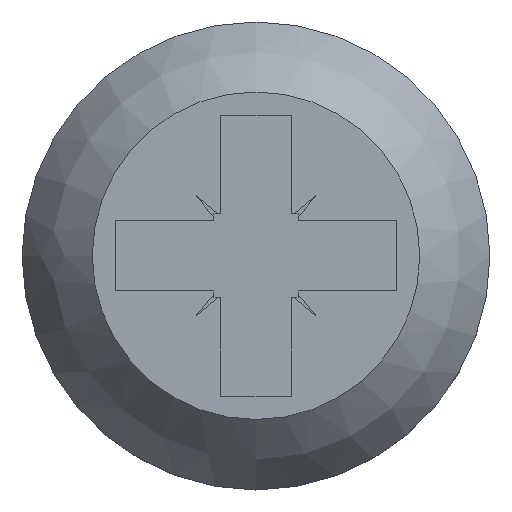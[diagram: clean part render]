
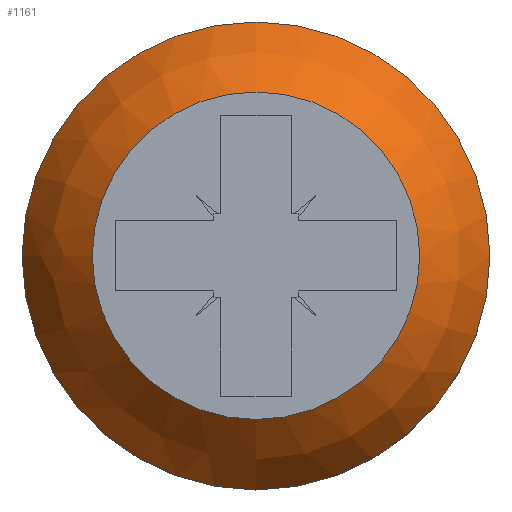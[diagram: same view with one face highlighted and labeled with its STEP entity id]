
A CAD part, top view. The second image highlights one B-rep face of the part: STEP entity #1161.
In plain terms, the highlighted spherical face has radius 3.865 mm.
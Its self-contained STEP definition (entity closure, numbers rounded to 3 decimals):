
#16=SPHERICAL_SURFACE('',#1238,3.865);
#112=FACE_OUTER_BOUND('',#170,.T.);
#170=EDGE_LOOP('',(#1070,#1071,#1072,#1073,#1074));
#181=CIRCLE('',#1237,2.45);
#182=CIRCLE('',#1239,3.865);
#183=CIRCLE('',#1240,3.5);
#184=CIRCLE('',#1241,3.5);
#572=VERTEX_POINT('',#9459);
#573=VERTEX_POINT('',#9462);
#574=VERTEX_POINT('',#9464);
#741=EDGE_CURVE('',#572,#572,#181,.T.);
#742=EDGE_CURVE('',#572,#573,#182,.T.);
#743=EDGE_CURVE('',#574,#573,#183,.T.);
#744=EDGE_CURVE('',#573,#574,#184,.T.);
#1070=ORIENTED_EDGE('',*,*,#741,.T.);
#1071=ORIENTED_EDGE('',*,*,#742,.T.);
#1072=ORIENTED_EDGE('',*,*,#743,.F.);
#1073=ORIENTED_EDGE('',*,*,#744,.F.);
#1074=ORIENTED_EDGE('',*,*,#742,.F.);
#1161=ADVANCED_FACE('',(#112),#16,.T.);
#1237=AXIS2_PLACEMENT_3D('',#9460,#1474,#1475);
#1238=AXIS2_PLACEMENT_3D('',#9461,#1476,#1477);
#1239=AXIS2_PLACEMENT_3D('',#9463,#1478,#1479);
#1240=AXIS2_PLACEMENT_3D('',#9465,#1480,#1481);
#1241=AXIS2_PLACEMENT_3D('',#9466,#1482,#1483);
#1474=DIRECTION('center_axis',(0.,0.,-1.));
#1475=DIRECTION('ref_axis',(1.,0.,0.));
#1476=DIRECTION('center_axis',(0.,0.,1.));
#1477=DIRECTION('ref_axis',(1.,0.,0.));
#1478=DIRECTION('center_axis',(0.,-1.,0.));
#1479=DIRECTION('ref_axis',(-1.,0.,0.));
#1480=DIRECTION('center_axis',(0.,0.,-1.));
#1481=DIRECTION('ref_axis',(1.,0.,0.));
#1482=DIRECTION('center_axis',(0.,0.,-1.));
#1483=DIRECTION('ref_axis',(1.,0.,0.));
#9459=CARTESIAN_POINT('',(-2.45,0.,12.7));
#9460=CARTESIAN_POINT('Origin',(0.,0.,12.7));
#9461=CARTESIAN_POINT('Origin',(0.,0.,9.711));
#9462=CARTESIAN_POINT('',(-3.5,0.,11.35));
#9463=CARTESIAN_POINT('Origin',(0.,0.,9.711));
#9464=CARTESIAN_POINT('',(0.,-3.5,11.35));
#9465=CARTESIAN_POINT('Origin',(0.,0.,11.35));
#9466=CARTESIAN_POINT('Origin',(0.,0.,11.35));
